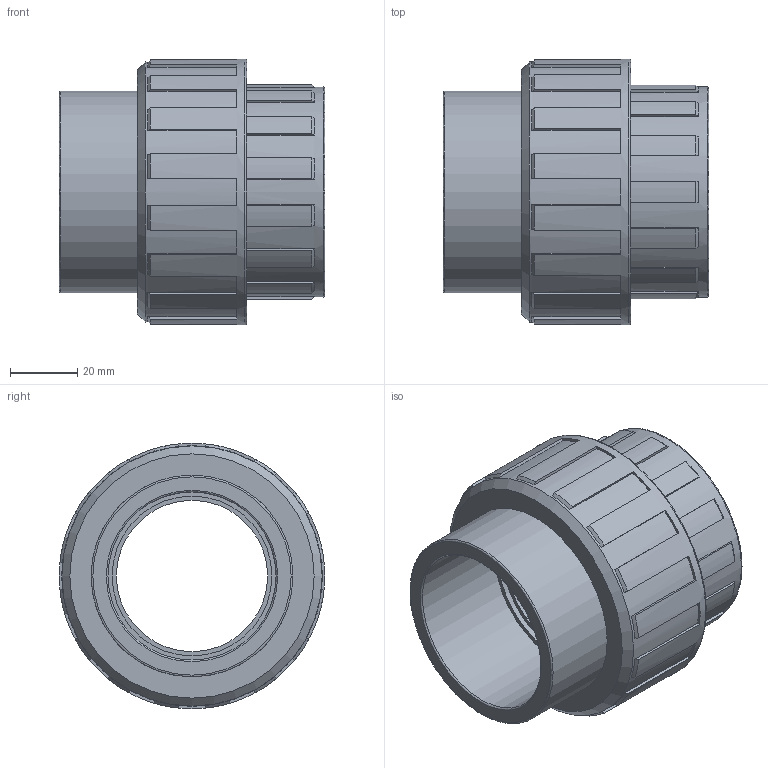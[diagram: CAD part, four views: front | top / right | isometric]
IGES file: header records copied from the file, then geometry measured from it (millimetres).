
Global section: file name: 050800050.ipt; native system: Autodesk Inventor 2015; preprocessor: unknown; author: Кирилл,,11,0; organization: 20171003.032032; date: 20171207.164908; units: millimetre
Bounding box: 79 x 79 x 79 mm (x, y, z)
Volume: 144631.6 mm3; surface area: 36181.2 mm2
Topology: 1 solids, 1 shells, 141 faces, 414 edges, 280 vertices
Faces by surface type: plane 83, cone 31, cylinder 18, revolution 9
Full cylindrical faces by diameter (mm): 60 x1, 62.5 x1, 77.42 x1, 79 x1
